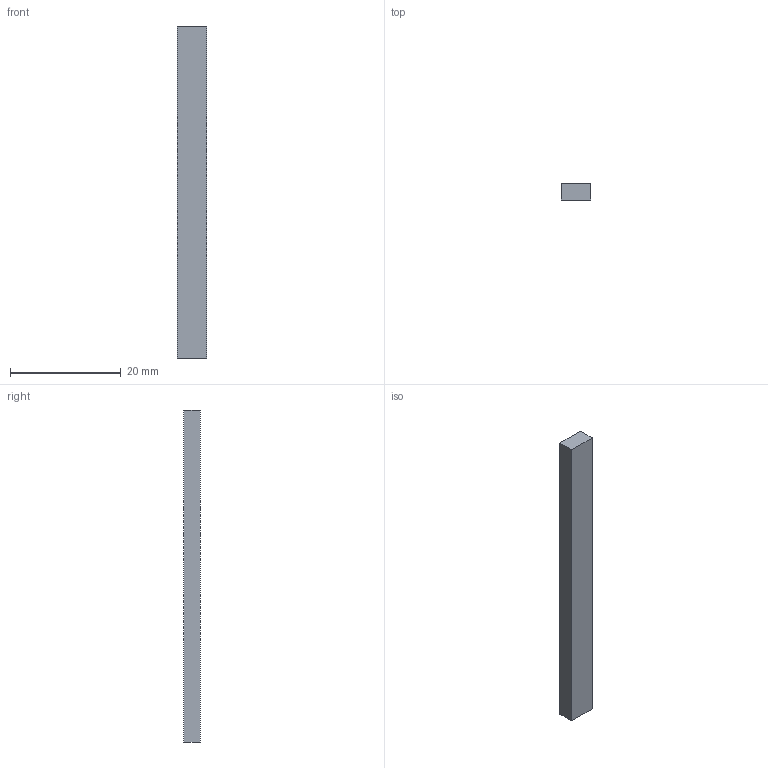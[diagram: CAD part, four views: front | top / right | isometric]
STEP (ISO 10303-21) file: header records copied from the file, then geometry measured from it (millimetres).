
FILE_DESCRIPTION (( 'STEP AP214' ), '1' );
FILE_NAME ('LS1510B_DriveRod_60-PiezoMotor.STEP', '2017-06-07T12:28:41', ( '' ), ( '' ), 'SwSTEP 2.0', 'SolidWorks 2016', '' );
FILE_SCHEMA (( 'AUTOMOTIVE_DESIGN' ));
Length unit declared in the file: millimetre
Products named in the file (2): LS1510B_DriveRod_60-PiezoMotor
Bounding box: 5.3 x 3 x 60 mm (x, y, z)
Volume: 954 mm3; surface area: 1027.8 mm2
Topology: 1 solids, 1 shells, 6 faces, 12 edges, 8 vertices
Faces by surface type: plane 6
Entity records: 205 total; most frequent: CARTESIAN_POINT 28, DIRECTION 28, ORIENTED_EDGE 24, VECTOR 12, LINE 12, EDGE_CURVE 12, AXIS2_PLACEMENT_3D 8, VERTEX_POINT 8
